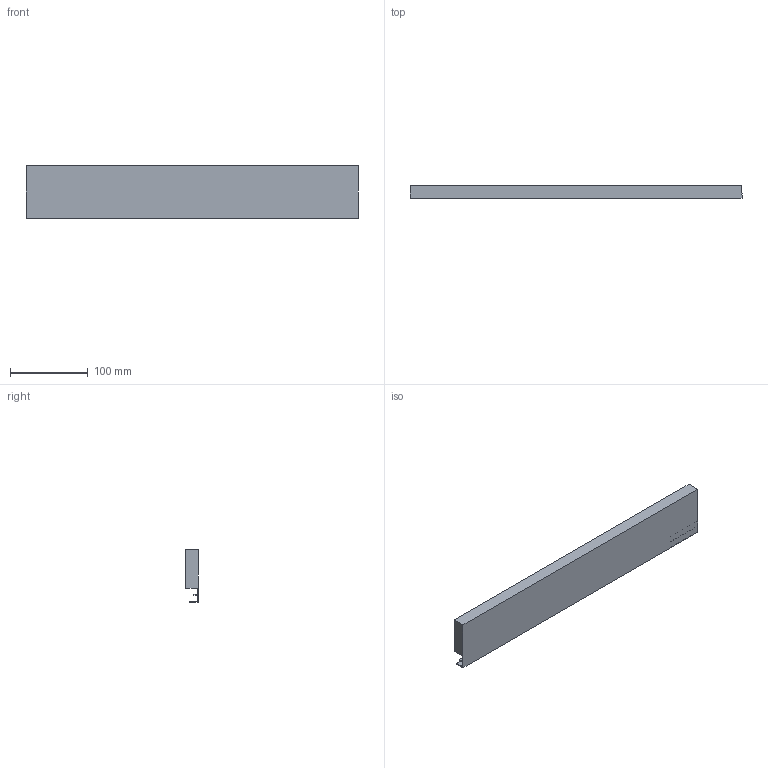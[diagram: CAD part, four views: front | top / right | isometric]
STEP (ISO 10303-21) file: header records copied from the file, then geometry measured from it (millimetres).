
FILE_DESCRIPTION (( 'STEP AP214' ), '1' );
FILE_NAME ('Innenschub-Blendenprofil_KAB550_S16.step', '2010-09-23T12:26:49', ( 'grass' ), ( '' ), 'SwSTEP 2.0', 'SolidWorks 2010', '' );
FILE_SCHEMA (( 'AUTOMOTIVE_DESIGN' ));
Length unit declared in the file: millimetre
Products named in the file (1): Innenschub-Blendenprofil_KAB550_S16
Bounding box: 427 x 15.9 x 67.6 mm (x, y, z)
Volume: 354033.7 mm3; surface area: 85470.4 mm2
Topology: 1 solids, 1 shells, 17 faces, 42 edges, 28 vertices
Faces by surface type: plane 15, cylinder 2
Entity records: 534 total; most frequent: CARTESIAN_POINT 88, ORIENTED_EDGE 84, DIRECTION 82, EDGE_CURVE 42, VECTOR 38, LINE 38, VERTEX_POINT 28, AXIS2_PLACEMENT_3D 22
